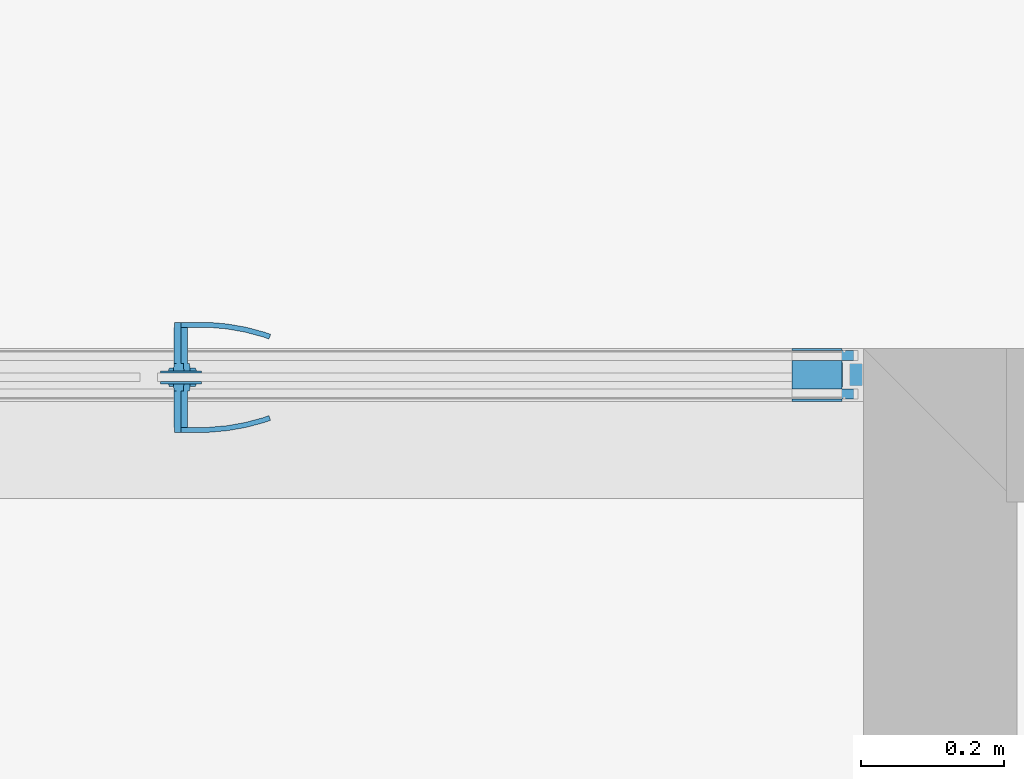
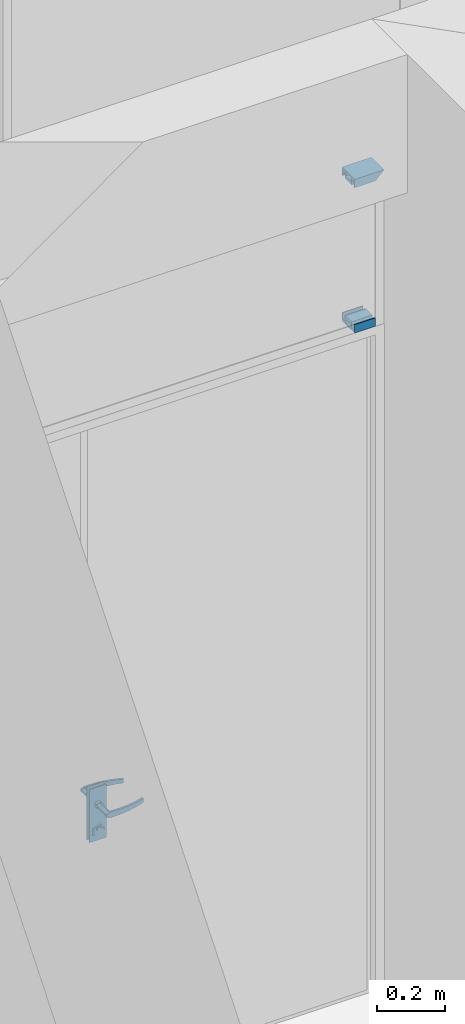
# One storey, part 67 of 89: 4 building element parts, 4 elements without a shape of their own.
"""IFC2X3 building model written with IfcOpenShell, lengths in millimetres."""

import ifcopenshell
import ifcopenshell.guid

model = None  # the IFC model being written
_history = None  # IfcOwnerHistory: only IFC2X3 demands one
_inside = {}  # id of a spatial element -> (the spatial element, [elements in it])
_under = {}  # id of a project, library or spatial element -> (it, [spatial elements below it])
_declared = {}  # id of a project -> (the project, [libraries it declares])
_typed = {}  # id of a type object -> (the type object, [elements of that type])
_made_of = {}  # id of a material, layer set ... -> (it, [elements and type objects made of it])


def new_model(schema):
    """Start an empty IFC model of exactly this schema.

    Asked for "IFC4X3", IfcOpenShell would pick the latest addendum, in which some entities
    have other attributes; the version numbers below select the first issue.
    IFC2X3 requires an IfcOwnerHistory on every rooted entity: one is made here for all.
    """
    global model, _history
    if schema == "IFC4X3":
        model = ifcopenshell.file(schema_version=(4, 3, 0, 0))
    else:
        model = ifcopenshell.file(schema=schema)
    _inside.clear()
    _under.clear()
    _declared.clear()
    _typed.clear()
    _made_of.clear()
    _history = None
    if model.schema == "IFC2X3":
        org = make("IfcOrganization", Name="unknown")
        user = make(
            "IfcPersonAndOrganization",
            ThePerson=make("IfcPerson", FamilyName="unknown"),
            TheOrganization=org,
        )
        app = make(
            "IfcApplication",
            ApplicationDeveloper=org,
            Version="unknown",
            ApplicationFullName="unknown",
            ApplicationIdentifier="unknown",
        )
        _history = make(
            "IfcOwnerHistory",
            OwningUser=user,
            OwningApplication=app,
            ChangeAction="ADDED",
            CreationDate=0,
        )
    return model


def make(cls, **values):
    """One entity of the class cls with the attributes given. An attribute that is None is left unset."""
    return model.create_entity(
        cls, **{name: value for name, value in values.items() if value is not None}
    )


def entity(cls, *values):
    """Any entity or typed value of the class cls, its attributes in the order of the schema. None: left unset."""
    e = model.create_entity(cls)
    for i, value in enumerate(values):
        if value is not None:
            e[i] = value
    return e


def rooted(cls, **values):
    """An entity with a GlobalId (a new one), such as an element, a storey or a relation."""
    return make(cls, GlobalId=ifcopenshell.guid.new(), OwnerHistory=_history, **values)


def si_unit(unit_type, name, prefix=None):
    """IfcSIUnit, for example si_unit("LENGTHUNIT", "METRE", prefix="MILLI")."""
    return make("IfcSIUnit", UnitType=unit_type, Prefix=prefix, Name=name)


def converted_unit(unit_type, name, factor, base, dimensions=None, offset=None):
    """IfcConversionBasedUnit, such as the inch: factor (a typed value) times the base unit."""
    return make(
        "IfcConversionBasedUnit"
        if offset is None
        else "IfcConversionBasedUnitWithOffset",
        ConversionOffset=offset,
        Dimensions=None
        if dimensions is None
        else entity("IfcDimensionalExponents", *dimensions),
        UnitType=unit_type,
        Name=name,
        ConversionFactor=make(
            "IfcMeasureWithUnit", ValueComponent=factor, UnitComponent=base
        ),
    )


def derived_unit(unit_type, elements):
    """IfcDerivedUnit: a product of units, each with its exponent."""
    return make(
        "IfcDerivedUnit",
        Elements=[
            make("IfcDerivedUnitElement", Unit=unit, Exponent=power)
            for unit, power in elements
        ],
        UnitType=unit_type,
    )


def money_unit(currency):
    """IfcMonetaryUnit."""
    return make("IfcMonetaryUnit", Currency=currency)


def assignment(units):
    """IfcUnitAssignment: the units of a project."""
    return None if units is None else make("IfcUnitAssignment", Units=units)


def point(xyz):
    """IfcCartesianPoint."""
    return None if xyz is None else make("IfcCartesianPoint", Coordinates=xyz)


def direction(xyz):
    """IfcDirection."""
    return None if xyz is None else make("IfcDirection", DirectionRatios=xyz)


def frame(location, z_axis=None, x_axis=None):
    """IfcAxis2Placement3D, a coordinate frame: its origin and axes. An axis left out is left unset."""
    return make(
        "IfcAxis2Placement3D",
        Location=point(location),
        Axis=direction(z_axis),
        RefDirection=direction(x_axis),
    )


def origin_with_axes():
    """The frame at (0, 0, 0) with the z axis (0, 0, 1) and the x axis (1, 0, 0) written out."""
    return frame((0.0, 0.0, 0.0), z_axis=(0.0, 0.0, 1.0), x_axis=(1.0, 0.0, 0.0))


def place(relative_to, where):
    """IfcLocalPlacement: puts the frame where relative to a parent placement (None: the world)."""
    return make(
        "IfcLocalPlacement", PlacementRelTo=relative_to, RelativePlacement=where
    )


def context(
    kind, dimensions, precision=None, world=None, true_north=None, identifier=None
):
    """IfcGeometricRepresentationContext, for example the 3D "Model" context."""
    return make(
        "IfcGeometricRepresentationContext",
        ContextIdentifier=identifier,
        ContextType=kind,
        CoordinateSpaceDimension=dimensions,
        Precision=precision,
        WorldCoordinateSystem=world,
        TrueNorth=true_north,
    )


def subcontext(parent, identifier, kind, view, scale=None):
    """IfcGeometricRepresentationSubContext, for example "Body" below "Model"."""
    return make(
        "IfcGeometricRepresentationSubContext",
        ContextIdentifier=identifier,
        ContextType=kind,
        ParentContext=parent,
        TargetScale=scale,
        TargetView=view,
    )


def project(units=None, contexts=None):
    """IfcProject with its units and contexts."""
    return rooted(
        "IfcProject",
        Name="project",
        RepresentationContexts=contexts,
        UnitsInContext=assignment(units),
    )


def spatial(cls, under=None, at=None, **own):
    """A site, building, storey or space (cls), placed at a placement, below another one or the project."""
    s = rooted(cls, ObjectPlacement=at, **own)
    if under is not None:
        _under.setdefault(under.id(), (under, []))[1].append(s)
    return s


def faces_of(points, faces, orient=None, outer=None):
    """IfcFace entities. A face is a list of loops; a loop is a list of indices into points, from 0.

    orient and outer hold one flag for each loop. By default every Orientation is true, the
    first loop of a face is its IfcFaceOuterBound and the others are IfcFaceBound.
    """
    made = []
    for i, loops in enumerate(faces):
        bounds = []
        for j, loop in enumerate(loops):
            is_outer = j == 0 if outer is None else outer[i][j]
            bounds.append(
                make(
                    "IfcFaceOuterBound" if is_outer else "IfcFaceBound",
                    Bound=make("IfcPolyLoop", Polygon=[points[k] for k in loop]),
                    Orientation=True if orient is None else orient[i][j],
                )
            )
        made.append(make("IfcFace", Bounds=bounds))
    return made


def open_shell(faces, orient=None, outer=None):
    """The faces of one IfcOpenShell. surface_model builds it on its shared points."""
    return ("IfcOpenShell", faces, orient, outer)


def faceted_brep(points, faces, orient=None, outer=None, voids=None):
    """IfcFacetedBrep: a solid bounded by flat faces; with voids (closed shells), ...WithVoids."""
    shared = [point(p) for p in points]
    hull = make("IfcClosedShell", CfsFaces=faces_of(shared, faces, orient, outer))
    if voids is None:
        return make("IfcFacetedBrep", Outer=hull)
    return make(
        "IfcFacetedBrepWithVoids",
        Outer=hull,
        Voids=[
            make(cls, CfsFaces=faces_of(shared, fs, o, b)) for cls, fs, o, b in voids
        ],
    )


def surface_model(cls, points, shells):
    """IfcFaceBasedSurfaceModel or IfcShellBasedSurfaceModel (cls): surfaces that need not close."""
    shared = [point(p) for p in points]
    made = [make(c, CfsFaces=faces_of(shared, fs, o, b)) for c, fs, o, b in shells]
    if cls == "IfcFaceBasedSurfaceModel":
        return make(cls, FbsmFaces=made)
    return make(cls, SbsmBoundary=made)


def shape(context_of_items, identifier, shape_type, items):
    """IfcShapeRepresentation: the items that make up one representation, for example the "Body"."""
    return make(
        "IfcShapeRepresentation",
        ContextOfItems=context_of_items,
        RepresentationIdentifier=identifier,
        RepresentationType=shape_type,
        Items=items,
    )


def material(Name=None, Category=None):
    """IfcMaterial."""
    return make("IfcMaterial", Name=Name, Category=Category)


def made_of(thing, what):
    """Note that an element or type object is made of a material, layer set ...; save() writes the relation."""
    if what is not None:
        _made_of.setdefault(what.id(), (what, []))[1].append(thing)
    return thing


def type_object(cls, material=None, **own):
    """A type object (cls), such as IfcWallType, which elements share."""
    return made_of(rooted(cls, **own), material)


def element(
    cls,
    number,
    at=None,
    inside=None,
    cuts=None,
    type_object=None,
    material=None,
    context=None,
    identifier="Body",
    shape_type=None,
    held_by="IfcProductDefinitionShape",
    body=None,
    shapes=None,
    **own,
):
    """One element of the class cls, such as IfcWall. Its Tag is "e" and its number.

    at: its placement. inside: the storey or other place that contains it. cuts: it is an
    opening in that element (IfcRelVoidsElement). A single representation is given by context,
    identifier, shape_type and body (its items); several are given by shapes. held_by: the class
    of the entity that holds the representations. save() writes the other relations.
    """
    e = rooted(cls, Tag="e%d" % number, ObjectPlacement=at, **own)
    if body is not None:
        shapes = [shape(context, identifier, shape_type, body)]
    if shapes is not None:
        e.Representation = make(held_by, Representations=shapes)
    if inside is not None:
        _inside.setdefault(inside.id(), (inside, []))[1].append(e)
    if cuts is not None:
        rooted(
            "IfcRelVoidsElement", RelatingBuildingElement=cuts, RelatedOpeningElement=e
        )
    if type_object is not None:
        _typed.setdefault(type_object.id(), (type_object, []))[1].append(e)
    return made_of(e, material)


def aggregate(whole, parts):
    """IfcRelAggregates: a whole, such as a stair, and the parts it consists of."""
    return rooted("IfcRelAggregates", RelatingObject=whole, RelatedObjects=parts)


def save(model, path):
    """Write the relations noted so far, then the file.

    IfcRelAggregates (storeys below a building ...), IfcRelContainedInSpatialStructure (elements
    in a storey), IfcRelDefinesByType, IfcRelAssociatesMaterial and IfcRelDeclares: one each for
    every whole, place, type object, material and project.
    """
    for whole, parts in _under.values():
        aggregate(whole, parts)
    for where, things in _inside.values():
        rooted(
            "IfcRelContainedInSpatialStructure",
            RelatedElements=things,
            RelatingStructure=where,
        )
    for kind, things in _typed.values():
        rooted("IfcRelDefinesByType", RelatedObjects=things, RelatingType=kind)
    for what, things in _made_of.values():
        rooted("IfcRelAssociatesMaterial", RelatedObjects=things, RelatingMaterial=what)
    for by, libraries in _declared.values():
        rooted("IfcRelDeclares", RelatingContext=by, RelatedDefinitions=libraries)
    model.write(path)


model = new_model("IFC2X3")

# Units and contexts
model_context = context("Model", 3, precision=0.01, world=origin_with_axes(), true_north=direction((0.0, 1.0)))
body_context = subcontext(model_context, "Body", "Model", "MODEL_VIEW")
ifc_project = project(units=[si_unit("LENGTHUNIT", "METRE", prefix="MILLI"), si_unit("AREAUNIT", "SQUARE_METRE"), si_unit("VOLUMEUNIT", "CUBIC_METRE"), converted_unit("PLANEANGLEUNIT", "DEGREE", entity("IfcPlaneAngleMeasure", 0.0174532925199), si_unit("PLANEANGLEUNIT", "RADIAN"), dimensions=[0, 0, 0, 0, 0, 0, 0]), si_unit("SOLIDANGLEUNIT", "STERADIAN"), money_unit("EUR"), converted_unit("TIMEUNIT", "Year", entity("IfcTimeMeasure", 31556926.0), si_unit("TIMEUNIT", "SECOND"), dimensions=[0, 0, 1, 0, 0, 0, 0]), si_unit("MASSUNIT", "GRAM", prefix="KILO"), si_unit("THERMODYNAMICTEMPERATUREUNIT", "DEGREE_CELSIUS"), si_unit("LUMINOUSINTENSITYUNIT", "LUMEN"), si_unit("ENERGYUNIT", "JOULE", prefix="MEGA"), derived_unit("THERMALCONDUCTANCEUNIT", [(si_unit("POWERUNIT", "WATT"), 1), (si_unit("LENGTHUNIT", "METRE"), -1), (si_unit("THERMODYNAMICTEMPERATUREUNIT", "KELVIN"), -1)]), derived_unit("SPECIFICHEATCAPACITYUNIT", [(si_unit("ENERGYUNIT", "JOULE"), 1), (si_unit("MASSUNIT", "GRAM", prefix="KILO"), -1), (si_unit("THERMODYNAMICTEMPERATUREUNIT", "KELVIN"), -1)]), derived_unit("MASSDENSITYUNIT", [(si_unit("MASSUNIT", "GRAM", prefix="KILO"), 1), (si_unit("VOLUMEUNIT", "CUBIC_METRE"), -1)])], contexts=[model_context])

# Site, building, storey
site_placement = place(None, origin_with_axes())
site = spatial("IfcSite", under=ifc_project, at=site_placement, Name="Puškini 31, Narva", CompositionType="ELEMENT")
building_placement = place(site_placement, origin_with_axes())
building = spatial("IfcBuilding", under=site, at=building_placement, Name="Narva Riigigümnaasium", CompositionType="ELEMENT")
storey_placement = place(building_placement, frame((0.0, 0.0, -3300.0), z_axis=(0.0, 0.0, 1.0), x_axis=(1.0, 0.0, 0.0)))
storey = spatial("IfcBuildingStorey", under=building, at=storey_placement, Name="1.korrus -3.3", CompositionType="ELEMENT", Elevation=-3300.0)

# Curtain wall, door, building element parts, members
curtain_wall_type = type_object("IfcCurtainWallType", Name="Curtain Wall Type", PredefinedType="NOTDEFINED")
curtain_wall_placement = place(storey_placement, frame((38300.0000003, 240678.000001, -3.3467437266e-05), z_axis=(0.0, 0.0, 1.0), x_axis=(1.0, 0.0, 0.0)))
curtain_wall = element("IfcCurtainWall", 1, at=curtain_wall_placement, inside=storey, type_object=curtain_wall_type, Name="G-SKLF-56")
door_style = type_object("IfcDoorStyle", Name="1300 x 2385 x -5", ConstructionType="NOTDEFINED", OperationType="NOTDEFINED", ParameterTakesPrecedence=False, Sizeable=False)
door_placement = place(curtain_wall_placement, frame((0.0, 0.0, 1200.00001673), z_axis=(0.0, 0.0, 1.0), x_axis=(-1.0, 0.0, 0.0)))
door = element("IfcDoor", 2, at=door_placement, type_object=door_style, Name="G-SKLF-59-U1", ObjectType="DOOR")
ifc_material_1 = material(Name="ET-07_Teras - Roostevaba")
building_element_part_1_placement = place(door_placement, origin_with_axes())
building_element_part_1 = element("IfcBuildingElementPart", 3, at=building_element_part_1_placement, material=ifc_material_1, Name="ET-07_Teras - Roostevaba", context=body_context, shape_type="SurfaceModel", body=[
    faceted_brep([(483.5, 14.5, -140.000016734), (483.5, 17.5, -140.000016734), (426.5, 17.5, -140.000016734), (426.5, 14.5, -140.000016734), (483.5, 14.5, -330.000016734), (483.5, 17.5, -330.000016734), (426.5, 17.5, -330.000016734), (426.5, 14.5, -330.000016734)], [[[0, 1, 2, 3]], [[4, 5, 1, 0]], [[1, 5, 6, 2]], [[3, 2, 6, 7]], [[0, 3, 7, 4]], [[7, 6, 5, 4]]]),
    surface_model("IfcShellBasedSurfaceModel", [(455.0, 78.5, -210.000016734), (455.0, 85.5, -210.000016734), (463.660254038, 85.5, -205.000016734), (463.660254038, 78.5, -205.000016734), (430.0, 78.5, -210.000016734), (430.0, 85.5, -210.000016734), (430.0, 85.5, -190.000016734), (455.0, 85.5, -190.000016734), (463.660254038, 85.5, -195.000016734), (463.660254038, 78.5, -195.000016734), (455.0, 78.5, -190.000016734), (430.0, 78.5, -190.000016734)], [open_shell([[[0, 1, 2, 3]], [[4, 5, 1, 0]], [[1, 5, 6, 7, 8, 2]], [[3, 2, 8, 9]], [[0, 3, 9, 10, 11, 4]], [[10, 7, 6, 11]], [[9, 8, 7, 10]]])]),
    surface_model("IfcShellBasedSurfaceModel", [(430.0, 78.5, -190.000016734), (416.596090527, 85.5, -190.392715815), (416.901717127, 78.5, -190.392715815), (430.0, 85.5, -190.000016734), (389.890283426, 83.1635446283, -191.178113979), (416.901717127, 78.5, -209.607317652), (430.0, 78.5, -210.000016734), (430.0, 85.5, -210.000016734), (416.596090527, 85.5, -209.607317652), (389.890283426, 83.1635446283, -208.821919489), (390.804837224, 76.216818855, -191.178113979), (390.804837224, 76.216818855, -208.821919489), (363.489735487, 78.5084157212, -208.036521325), (363.489735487, 78.5084157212, -191.963512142), (365.006256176, 71.6678329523, -191.963512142), (365.006256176, 71.6678329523, -208.036521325), (337.59537082, 71.5700416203, -207.251123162), (337.59537082, 71.5700416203, -192.748910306), (339.702316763, 64.8876628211, -192.748910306), (339.702316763, 64.8876628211, -207.251123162), (329.538795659, 68.6376880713, -207.000016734), (329.538795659, 68.6376880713, -193.000016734), (331.829442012, 62.0221707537, -193.000016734), (331.829442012, 62.0221707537, -207.000016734)], [open_shell([[[0, 1, 2]], [[0, 3, 1]], [[2, 1, 4]], [[0, 2, 5, 6]], [[3, 7, 8, 1]], [[1, 8, 9, 4]], [[2, 4, 10]], [[2, 10, 11, 5]], [[5, 7, 6]], [[5, 8, 7]], [[11, 9, 8]], [[4, 9, 12, 13]], [[10, 4, 13]], [[10, 14, 15, 11]], [[11, 8, 5]], [[15, 9, 11]], [[15, 12, 9]], [[13, 12, 16, 17]], [[10, 13, 14]], [[14, 18, 19, 15]], [[19, 12, 15]], [[19, 16, 12]], [[17, 16, 20, 21]], [[14, 13, 17]], [[14, 17, 18]], [[18, 22, 23, 19]], [[23, 16, 19]], [[23, 20, 16]], [[22, 21, 20, 23]], [[18, 17, 21]], [[18, 21, 22]]])]),
    faceted_brep([(451.291796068, 27.5, -211.412694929), (450.982779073, 17.5, -212.363751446), (442.0, 17.5, -200.000016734), (443.0, 27.5, -200.000016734), (464.708203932, 27.5, -207.053439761), (465.517220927, 17.5, -207.641225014), (465.517220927, 17.5, -192.358808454), (450.982779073, 17.5, -187.636282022), (451.291796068, 27.5, -188.587338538), (464.708203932, 27.5, -192.946593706)], [[[0, 1, 2, 3]], [[4, 5, 1, 0]], [[2, 1, 5, 6, 7]], [[3, 2, 7, 8]], [[3, 8, 9, 4, 0]], [[9, 6, 5, 4]], [[8, 7, 6, 9]]]),
    faceted_brep([(448.819660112, 21.5, -314.02114706), (448.201626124, 17.5, -315.923260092), (433.0, 17.5, -295.000016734), (435.0, 21.5, -295.000016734), (471.180339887, 21.5, -306.75572178), (472.798373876, 17.5, -307.931292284), (472.798373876, 17.5, -282.068741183), (448.201626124, 17.5, -274.076773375), (448.819660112, 21.5, -275.978886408), (471.180339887, 21.5, -283.244311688)], [[[0, 1, 2, 3]], [[4, 5, 1, 0]], [[2, 1, 5, 6, 7]], [[3, 2, 7, 8]], [[3, 8, 9, 4, 0]], [[9, 6, 5, 4]], [[8, 7, 6, 9]]]),
    faceted_brep([(452.836881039, 23.5, -292.657412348), (452.527864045, 21.5, -293.608468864), (447.0, 21.5, -286.000016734), (448.0, 23.5, -286.000016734), (460.663118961, 23.5, -290.1145135), (461.472135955, 21.5, -290.702298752), (461.472135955, 21.5, -281.297734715), (452.527864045, 21.5, -278.391564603), (452.836881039, 23.5, -279.34262112), (460.663118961, 23.5, -281.885519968)], [[[0, 1, 2, 3]], [[4, 5, 1, 0]], [[2, 1, 5, 6, 7]], [[3, 2, 7, 8]], [[3, 8, 9, 4, 0]], [[9, 6, 5, 4]], [[8, 7, 6, 9]]]),
    faceted_brep([(455.0, 27.5, -190.000016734), (455.0, 78.5, -190.000016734), (445.489434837, 78.5, -196.90984679), (445.489434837, 27.5, -196.90984679), (464.510565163, 27.5, -196.90984679), (464.510565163, 78.5, -196.90984679), (460.877852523, 78.5, -208.090186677), (449.122147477, 78.5, -208.090186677), (449.122147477, 27.5, -208.090186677), (460.877852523, 27.5, -208.090186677)], [[[0, 1, 2, 3]], [[4, 5, 1, 0]], [[1, 5, 6, 7, 2]], [[3, 2, 7, 8]], [[0, 3, 8, 9, 4]], [[9, 6, 5, 4]], [[8, 7, 6, 9]]]),
    faceted_brep([(483.5, 2.5, -140.000016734), (426.5, 2.5, -140.000016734), (426.5, -0.499999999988, -140.000016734), (483.5, -0.499999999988, -140.000016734), (483.5, 2.5, -330.000016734), (426.5, 2.5, -330.000016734), (426.5, -0.499999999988, -330.000016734), (483.5, -0.499999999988, -330.000016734)], [[[0, 1, 2, 3]], [[0, 4, 5, 1]], [[1, 5, 6, 2]], [[3, 2, 6, 7]], [[4, 0, 3, 7]], [[5, 4, 7, 6]]]),
    surface_model("IfcShellBasedSurfaceModel", [(455.0, -61.5, -210.000016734), (463.660254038, -61.5, -205.000016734), (463.660254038, -68.5, -205.000016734), (455.0, -68.5, -210.000016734), (430.0, -61.5, -210.000016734), (430.0, -61.5, -190.000016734), (455.0, -61.5, -190.000016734), (463.660254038, -61.5, -195.000016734), (463.660254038, -68.5, -195.000016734), (455.0, -68.5, -190.000016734), (430.0, -68.5, -190.000016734), (430.0, -68.5, -210.000016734)], [open_shell([[[0, 1, 2, 3]], [[0, 4, 5, 6, 7, 1]], [[1, 7, 8, 2]], [[3, 2, 8, 9, 10, 11]], [[4, 0, 3, 11]], [[6, 5, 10, 9]], [[7, 6, 9, 8]]])]),
    surface_model("IfcShellBasedSurfaceModel", [(430.0, -61.5, -190.000016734), (416.901717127, -61.5, -190.392715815), (416.596090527, -68.5, -190.392715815), (430.0, -61.5, -210.000016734), (416.901717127, -61.5, -209.607317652), (389.890283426, -66.1635446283, -191.178113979), (430.0, -68.5, -190.000016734), (430.0, -68.5, -210.000016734), (390.804837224, -59.216818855, -208.821919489), (390.804837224, -59.216818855, -191.178113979), (389.890283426, -66.1635446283, -208.821919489), (416.596090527, -68.5, -209.607317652), (365.006256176, -54.6678329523, -208.036521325), (365.006256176, -54.6678329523, -191.963512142), (363.489735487, -61.5084157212, -191.963512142), (363.489735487, -61.5084157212, -208.036521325), (339.702316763, -47.8876628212, -207.251123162), (339.702316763, -47.8876628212, -192.748910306), (337.59537082, -54.5700416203, -192.748910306), (337.59537082, -54.5700416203, -207.251123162), (331.829442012, -45.0221707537, -207.000016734), (331.829442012, -45.0221707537, -193.000016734), (329.538795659, -51.6376880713, -193.000016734), (329.538795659, -51.6376880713, -207.000016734)], [open_shell([[[0, 1, 2]], [[0, 3, 4, 1]], [[1, 5, 2]], [[0, 2, 6]], [[4, 3, 7]], [[1, 4, 8, 9]], [[1, 9, 5]], [[2, 5, 10, 11]], [[6, 2, 11, 7]], [[4, 7, 11]], [[8, 4, 11]], [[9, 8, 12, 13]], [[9, 14, 5]], [[5, 14, 15, 10]], [[8, 11, 10]], [[12, 8, 10]], [[13, 12, 16, 17]], [[9, 13, 14]], [[14, 18, 19, 15]], [[12, 10, 15]], [[16, 12, 15]], [[17, 16, 20, 21]], [[13, 17, 18]], [[13, 18, 14]], [[18, 22, 23, 19]], [[16, 15, 19]], [[20, 16, 19]], [[21, 20, 23, 22]], [[17, 21, 22]], [[17, 22, 18]], [[20, 19, 23]]])]),
    faceted_brep([(451.291796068, -10.5, -211.412694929), (443.0, -10.5, -200.000016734), (442.0, -0.499999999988, -200.000016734), (450.982779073, -0.499999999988, -212.363751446), (464.708203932, -10.5, -207.053439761), (464.708203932, -10.5, -192.946593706), (451.291796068, -10.5, -188.587338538), (450.982779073, -0.499999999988, -187.636282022), (465.517220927, -0.499999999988, -192.358808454), (465.517220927, -0.499999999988, -207.641225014)], [[[0, 1, 2, 3]], [[1, 0, 4, 5, 6]], [[1, 6, 7, 2]], [[2, 7, 8, 9, 3]], [[4, 0, 3, 9]], [[5, 4, 9, 8]], [[6, 5, 8, 7]]]),
    faceted_brep([(448.819660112, -4.50000000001, -314.02114706), (435.0, -4.50000000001, -295.000016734), (433.0, -0.499999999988, -295.000016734), (448.201626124, -0.499999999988, -315.923260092), (471.180339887, -4.50000000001, -306.75572178), (471.180339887, -4.50000000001, -283.244311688), (448.819660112, -4.50000000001, -275.978886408), (448.201626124, -0.499999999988, -274.076773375), (472.798373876, -0.499999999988, -282.068741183), (472.798373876, -0.499999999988, -307.931292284)], [[[0, 1, 2, 3]], [[1, 0, 4, 5, 6]], [[1, 6, 7, 2]], [[2, 7, 8, 9, 3]], [[4, 0, 3, 9]], [[5, 4, 9, 8]], [[6, 5, 8, 7]]]),
    faceted_brep([(452.836881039, -6.49999999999, -292.657412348), (448.0, -6.49999999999, -286.000016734), (447.0, -4.50000000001, -286.000016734), (452.527864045, -4.50000000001, -293.608468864), (460.663118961, -6.49999999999, -290.1145135), (460.663118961, -6.49999999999, -281.885519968), (452.836881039, -6.49999999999, -279.34262112), (452.527864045, -4.50000000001, -278.391564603), (461.472135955, -4.50000000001, -281.297734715), (461.472135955, -4.50000000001, -290.702298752)], [[[0, 1, 2, 3]], [[1, 0, 4, 5, 6]], [[1, 6, 7, 2]], [[2, 7, 8, 9, 3]], [[4, 0, 3, 9]], [[5, 4, 9, 8]], [[6, 5, 8, 7]]]),
    faceted_brep([(455.0, -10.5, -190.000016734), (445.489434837, -10.5, -196.90984679), (445.489434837, -61.5, -196.90984679), (455.0, -61.5, -190.000016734), (464.510565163, -10.5, -196.90984679), (460.877852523, -10.5, -208.090186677), (449.122147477, -10.5, -208.090186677), (449.122147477, -61.5, -208.090186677), (460.877852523, -61.5, -208.090186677), (464.510565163, -61.5, -196.90984679)], [[[0, 1, 2, 3]], [[0, 4, 5, 6, 1]], [[1, 6, 7, 2]], [[3, 2, 7, 8, 9]], [[4, 0, 3, 9]], [[5, 4, 9, 8]], [[6, 5, 8, 7]]]),
])
aggregate(door, [building_element_part_1])
member_type_1 = type_object("IfcMemberType", Name="Boundary Frame 30 x 42", PredefinedType="MULLION")
member_1_placement = place(curtain_wall_placement, frame((400.0, 0.0, 2950.00003347), z_axis=(1.0, 0.0, 0.0), x_axis=(0.0, 0.0, 1.0)))
member_1 = element("IfcMember", 4, at=member_1_placement, type_object=member_type_1, Name="SKLF-23-raam", ObjectType="MULLION")
ifc_material_2 = material(Name="Klaasvill")
building_element_part_2_placement = place(member_1_placement, origin_with_axes())
building_element_part_2 = element("IfcBuildingElementPart", 5, at=building_element_part_2_placement, material=ifc_material_2, Name="Klaasvill", context=body_context, shape_type="Brep", body=[
    faceted_brep([(-7.49999990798, -15.000000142, 0.0), (-13.8499999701, -15.000000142, 0.0), (-13.8499999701, -15.000000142, 86.1500000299), (-7.49999990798, -15.000000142, 92.500000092), (-7.49999990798, -29.0161444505, 0.0), (-13.8499999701, -29.0161444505, 0.0), (-13.8499999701, -29.0161444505, 86.1500000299), (-7.49999990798, -29.0161444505, 92.500000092)], [[[0, 1, 2, 3]], [[0, 4, 5, 1]], [[1, 5, 6, 2]], [[3, 2, 6, 7]], [[4, 0, 3, 7]], [[5, 4, 7, 6]]]),
    faceted_brep([(-24.987414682, -29.0161444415, 0.0), (-25.004489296, -27.0307503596, 0.0), (-25.004489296, -27.0307503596, 74.995510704), (-24.987414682, -29.0161444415, 75.012585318), (-28.5126239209, -29.0161444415, 0.0), (-28.7655837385, -28.0385325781, 0.0), (-28.4955493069, -27.0307503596, 0.0), (-27.75780152, -26.2930025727, 0.0), (-26.7500193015, -26.0229681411, 0.0), (-25.742237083, -26.2930025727, 0.0), (-25.742237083, -26.2930025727, 74.257762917), (-26.7500193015, -26.0229681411, 73.2499806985), (-27.75780152, -26.2930025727, 72.24219848), (-28.4955493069, -27.0307503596, 71.5044506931), (-28.7655837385, -28.0385325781, 71.2344162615), (-28.5126239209, -29.0161444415, 71.4873760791)], [[[0, 1, 2, 3]], [[0, 4, 5, 6, 7, 8, 9, 1]], [[1, 9, 10, 2]], [[3, 2, 10, 11, 12, 13, 14, 15]], [[4, 0, 3, 15]], [[5, 4, 15, 14]], [[6, 5, 14, 13]], [[7, 6, 13, 12]], [[8, 7, 12, 11]], [[9, 8, 11, 10]]]),
    faceted_brep([(-7.49999990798, 24.9999997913, 0.0), (-7.49999990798, 39.0161445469, 0.0), (-7.49999990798, 39.0161445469, 92.500000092), (-7.49999990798, 24.9999997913, 92.500000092), (-13.8499999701, 24.9999997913, 0.0), (-13.8499999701, 39.0161445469, 0.0), (-13.8499999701, 39.0161445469, 86.1500000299), (-13.8499999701, 24.9999997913, 86.1500000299)], [[[0, 1, 2, 3]], [[0, 4, 5, 1]], [[1, 5, 6, 2]], [[3, 2, 6, 7]], [[4, 0, 3, 7]], [[5, 4, 7, 6]]]),
    faceted_brep([(-25.004489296, 37.0307503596, 0.0), (-24.987414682, 39.0161444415, 0.0), (-24.987414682, 39.0161444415, 75.012585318), (-25.004489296, 37.0307503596, 74.995510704), (-25.742237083, 36.2930025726, 0.0), (-26.7500193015, 36.0229681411, 0.0), (-27.75780152, 36.2930025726, 0.0), (-28.4955493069, 37.0307503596, 0.0), (-28.7655837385, 38.0385325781, 0.0), (-28.5126239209, 39.0161444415, 0.0), (-28.5126239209, 39.0161444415, 71.4873760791), (-28.7655837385, 38.0385325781, 71.2344162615), (-28.4955493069, 37.0307503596, 71.5044506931), (-27.75780152, 36.2930025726, 72.24219848), (-26.7500193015, 36.0229681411, 73.2499806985), (-25.742237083, 36.2930025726, 74.257762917)], [[[0, 1, 2, 3]], [[0, 4, 5, 6, 7, 8, 9, 1]], [[1, 9, 10, 2]], [[3, 2, 10, 11, 12, 13, 14, 15]], [[4, 0, 3, 15]], [[5, 4, 15, 14]], [[6, 5, 14, 13]], [[7, 6, 13, 12]], [[8, 7, 12, 11]], [[9, 8, 11, 10]]]),
])
ifc_material_3 = material(Name="Teras RAL7012")
building_element_part_3_placement = place(member_1_placement, origin_with_axes())
building_element_part_3 = element("IfcBuildingElementPart", 6, at=building_element_part_3_placement, material=ifc_material_3, Name="Teras RAL7012", context=body_context, shape_type="Brep", body=[
    faceted_brep([(0.0, 22.0000000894, 0.0), (-29.5999996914, 22.0000000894, 0.0), (-29.5999996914, 22.0000000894, 70.4000003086), (0.0, 22.0000000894, 100.0), (0.0, -12.0000000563, 0.0), (-29.5999996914, -12.0000000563, 0.0), (-1.9999999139, -10.0000001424, 0.0), (-1.9999999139, 20.0000001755, 0.0), (-18.7999996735, 20.0000001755, 0.0), (-18.7999996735, -10.0000001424, 0.0), (-29.5999996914, -12.0000000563, 70.4000003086), (0.0, -12.0000000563, 100.0), (-1.9999999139, -10.0000001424, 98.0000000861), (-18.7999996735, -10.0000001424, 81.2000003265), (-18.7999996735, 20.0000001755, 81.2000003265), (-1.9999999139, 20.0000001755, 98.0000000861)], [[[0, 1, 2, 3]], [[0, 4, 5, 1], [6, 7, 8, 9]], [[1, 5, 10, 2]], [[3, 2, 10, 11], [12, 13, 14, 15]], [[4, 0, 3, 11]], [[5, 4, 11, 10]], [[7, 6, 12, 15]], [[8, 7, 15, 14]], [[9, 8, 14, 13]], [[6, 9, 13, 12]]]),
    faceted_brep([(0.0, -12.0, 0.0), (-29.5999996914, -12.0000000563, 0.0), (-29.5999996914, -12.0000000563, 70.4000003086), (0.0, -12.0, 100.0), (0.0, -32.0, 0.0), (-30.0000193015, -32.0, 0.0), (-30.0000193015, -29.0161444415, 0.0), (-28.5126239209, -29.0161444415, 0.0), (-24.987414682, -29.0161444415, 0.0), (-13.8499999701, -29.0161444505, 0.0), (-7.49999999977, -29.0161444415, 0.0), (-7.49999999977, -15.0, 0.0), (-13.8499999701, -15.000000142, 0.0), (-30.0000193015, -15.0, 0.0), (-30.0000193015, -12.0, 0.0), (-30.0000193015, -12.0, 69.9999806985), (-30.0000193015, -15.0, 69.9999806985), (-13.8499999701, -15.000000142, 86.1500000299), (-7.49999999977, -15.0, 92.5000000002), (-7.49999999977, -29.0161444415, 92.5000000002), (-13.8499999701, -29.0161444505, 86.1500000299), (-24.987414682, -29.0161444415, 75.012585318), (-28.5126239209, -29.0161444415, 71.4873760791), (-30.0000193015, -29.0161444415, 69.9999806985), (-30.0000193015, -32.0, 69.9999806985), (0.0, -32.0, 100.0)], [[[0, 1, 2, 3]], [[0, 4, 5, 6, 7, 8, 9, 10, 11, 12, 13, 14, 1]], [[1, 14, 15, 2]], [[3, 2, 15, 16, 17, 18, 19, 20, 21, 22, 23, 24, 25]], [[4, 0, 3, 25]], [[5, 4, 25, 24]], [[6, 5, 24, 23]], [[7, 6, 23, 22]], [[8, 7, 22, 21]], [[9, 8, 21, 20]], [[10, 9, 20, 19]], [[11, 10, 19, 18]], [[12, 11, 18, 17]], [[13, 12, 17, 16]], [[14, 13, 16, 15]]]),
    faceted_brep([(0.0, 22.0, 0.0), (0.0, 42.0, 0.0), (0.0, 42.0, 100.0), (0.0, 22.0, 100.0), (-29.5999996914, 22.0000000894, 0.0), (-30.0000193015, 22.0, 0.0), (-30.0000193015, 25.0, 0.0), (-13.8499999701, 24.9999997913, 0.0), (-7.49999999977, 25.0, 0.0), (-7.49999999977, 39.0161444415, 0.0), (-13.8499999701, 39.0161445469, 0.0), (-24.987414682, 39.0161444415, 0.0), (-28.5126239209, 39.0161444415, 0.0), (-30.0000193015, 39.0161444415, 0.0), (-30.0000193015, 42.0, 0.0), (-30.0000193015, 42.0, 69.9999806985), (-30.0000193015, 39.0161444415, 69.9999806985), (-28.5126239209, 39.0161444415, 71.4873760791), (-24.987414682, 39.0161444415, 75.012585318), (-13.8499999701, 39.0161445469, 86.1500000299), (-7.49999999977, 39.0161444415, 92.5000000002), (-7.49999999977, 25.0, 92.5000000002), (-13.8499999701, 24.9999997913, 86.1500000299), (-30.0000193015, 25.0, 69.9999806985), (-30.0000193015, 22.0, 69.9999806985), (-29.5999996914, 22.0000000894, 70.4000003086)], [[[0, 1, 2, 3]], [[0, 4, 5, 6, 7, 8, 9, 10, 11, 12, 13, 14, 1]], [[1, 14, 15, 2]], [[3, 2, 15, 16, 17, 18, 19, 20, 21, 22, 23, 24, 25]], [[4, 0, 3, 25]], [[5, 4, 25, 24]], [[6, 5, 24, 23]], [[7, 6, 23, 22]], [[8, 7, 22, 21]], [[9, 8, 21, 20]], [[10, 9, 20, 19]], [[11, 10, 19, 18]], [[12, 11, 18, 17]], [[13, 12, 17, 16]], [[14, 13, 16, 15]]]),
])
aggregate(member_1, [building_element_part_2, building_element_part_3])
member_type_2 = type_object("IfcMemberType", Name="Siseklaasfassaad-Servaprofiil-Doubleline30 30 x 42", PredefinedType="MULLION")
member_2_placement = place(curtain_wall_placement, frame((400.0, 0.0, 2400.00003347), z_axis=(1.0, 0.0, 0.0), x_axis=(0.0, 0.0, 1.0)))
member_2 = element("IfcMember", 7, at=member_2_placement, type_object=member_type_2, Name="Frame-Siseklaasf-126", ObjectType="MULLION")
aggregate(curtain_wall, [door, member_1, member_2])
building_element_part_4_placement = place(member_2_placement, origin_with_axes())
building_element_part_4 = element("IfcBuildingElementPart", 8, at=building_element_part_4_placement, material=ifc_material_3, Name="Teras RAL7012", context=body_context, shape_type="Brep", body=[
    faceted_brep([(0.0, 22.0000000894, 0.0), (0.0, 22.0000000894, 69.9999806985), (29.5999996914, 22.0000000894, 69.9999806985), (29.5999996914, 22.0000000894, 0.0), (0.0, -12.0000000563, 0.0), (0.0, -12.0000000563, 69.9999806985), (29.5999996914, -12.0000000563, 69.9999806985), (1.9999999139, -10.0000001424, 69.9999806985), (1.9999999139, 20.0000001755, 69.9999806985), (18.7999996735, 20.0000001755, 69.9999806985), (18.7999996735, -10.0000001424, 69.9999806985), (29.5999996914, -12.0000000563, 0.0), (1.9999999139, -10.0000001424, 0.0), (18.7999996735, -10.0000001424, 0.0), (18.7999996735, 20.0000001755, 0.0), (1.9999999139, 20.0000001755, 0.0)], [[[0, 1, 2, 3]], [[4, 5, 1, 0]], [[1, 5, 6, 2], [7, 8, 9, 10]], [[3, 2, 6, 11]], [[0, 3, 11, 4], [12, 13, 14, 15]], [[11, 6, 5, 4]], [[15, 8, 7, 12]], [[14, 9, 8, 15]], [[13, 10, 9, 14]], [[12, 7, 10, 13]]]),
    faceted_brep([(0.0, -12.0, 0.0), (0.0, -12.0, 69.9999806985), (29.5999996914, -12.0000000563, 69.9999806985), (29.5999996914, -12.0000000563, 0.0), (0.0, -32.0, 0.0), (0.0, -32.0, 69.9999806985), (30.0000193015, -32.0, 69.9999806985), (30.0000193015, -29.0161444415, 69.9999806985), (28.5126239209, -29.0161444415, 69.9999806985), (24.987414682, -29.0161444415, 69.9999806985), (13.8499999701, -29.0161444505, 69.9999806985), (7.49999999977, -29.0161444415, 69.9999806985), (7.49999999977, -15.0, 69.9999806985), (13.8499999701, -15.000000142, 69.9999806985), (30.0000193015, -15.0, 69.9999806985), (30.0000193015, -12.0, 69.9999806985), (30.0000193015, -12.0, 0.0), (30.0000193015, -15.0, 0.0), (13.8499999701, -15.000000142, 0.0), (7.49999999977, -15.0, 0.0), (7.49999999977, -29.0161444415, 0.0), (13.8499999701, -29.0161444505, 0.0), (24.987414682, -29.0161444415, 0.0), (28.5126239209, -29.0161444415, 0.0), (30.0000193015, -29.0161444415, 0.0), (30.0000193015, -32.0, 0.0)], [[[0, 1, 2, 3]], [[4, 5, 1, 0]], [[1, 5, 6, 7, 8, 9, 10, 11, 12, 13, 14, 15, 2]], [[3, 2, 15, 16]], [[0, 3, 16, 17, 18, 19, 20, 21, 22, 23, 24, 25, 4]], [[25, 6, 5, 4]], [[24, 7, 6, 25]], [[23, 8, 7, 24]], [[22, 9, 8, 23]], [[21, 10, 9, 22]], [[20, 11, 10, 21]], [[19, 12, 11, 20]], [[18, 13, 12, 19]], [[17, 14, 13, 18]], [[16, 15, 14, 17]]]),
    faceted_brep([(0.0, 22.0, 0.0), (0.0, 22.0, 69.9999806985), (0.0, 42.0, 69.9999806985), (0.0, 42.0, 0.0), (29.5999996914, 22.0000000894, 0.0), (29.5999996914, 22.0000000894, 69.9999806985), (30.0000193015, 22.0, 69.9999806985), (30.0000193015, 25.0, 69.9999806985), (13.8499999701, 24.9999997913, 69.9999806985), (7.49999999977, 25.0, 69.9999806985), (7.49999999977, 39.0161444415, 69.9999806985), (13.8499999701, 39.0161445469, 69.9999806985), (24.987414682, 39.0161444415, 69.9999806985), (28.5126239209, 39.0161444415, 69.9999806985), (30.0000193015, 39.0161444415, 69.9999806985), (30.0000193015, 42.0, 69.9999806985), (30.0000193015, 42.0, 0.0), (30.0000193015, 39.0161444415, 0.0), (28.5126239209, 39.0161444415, 0.0), (24.987414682, 39.0161444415, 0.0), (13.8499999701, 39.0161445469, 0.0), (7.49999999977, 39.0161444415, 0.0), (7.49999999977, 25.0, 0.0), (13.8499999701, 24.9999997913, 0.0), (30.0000193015, 25.0, 0.0), (30.0000193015, 22.0, 0.0)], [[[0, 1, 2, 3]], [[4, 5, 1, 0]], [[1, 5, 6, 7, 8, 9, 10, 11, 12, 13, 14, 15, 2]], [[3, 2, 15, 16]], [[0, 3, 16, 17, 18, 19, 20, 21, 22, 23, 24, 25, 4]], [[25, 6, 5, 4]], [[24, 7, 6, 25]], [[23, 8, 7, 24]], [[22, 9, 8, 23]], [[21, 10, 9, 22]], [[20, 11, 10, 21]], [[19, 12, 11, 20]], [[18, 13, 12, 19]], [[17, 14, 13, 18]], [[16, 15, 14, 17]]]),
])
aggregate(member_2, [building_element_part_4])

save(model, "model.ifc")
